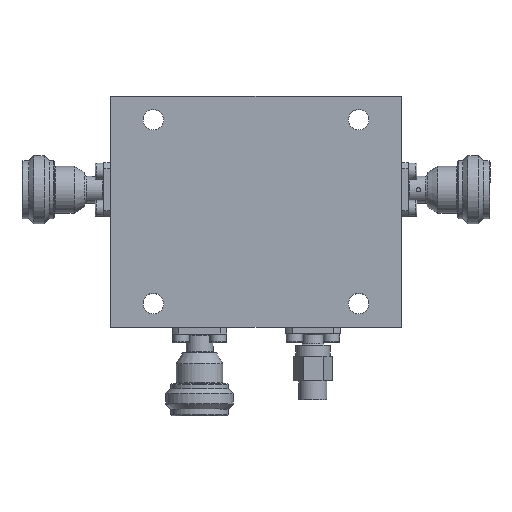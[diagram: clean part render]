
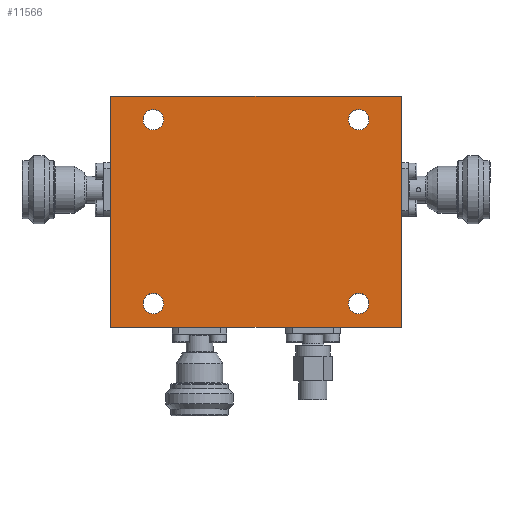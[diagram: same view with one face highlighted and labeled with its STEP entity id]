
A CAD part, top view. The second image highlights one B-rep face of the part: STEP entity #11566.
In plain terms, the highlighted planar face has unit normal (0, 0, 1).
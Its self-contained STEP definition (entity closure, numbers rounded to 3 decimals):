
#588=CIRCLE('',#12180,2.4);
#590=CIRCLE('',#12183,2.4);
#592=CIRCLE('',#12186,2.4);
#594=CIRCLE('',#12189,2.4);
#1089=ORIENTED_EDGE('',*,*,#3064,.T.);
#1090=ORIENTED_EDGE('',*,*,#3045,.T.);
#1091=ORIENTED_EDGE('',*,*,#3033,.T.);
#1092=ORIENTED_EDGE('',*,*,#3083,.T.);
#1093=ORIENTED_EDGE('',*,*,#3081,.F.);
#1094=ORIENTED_EDGE('',*,*,#3079,.F.);
#1095=ORIENTED_EDGE('',*,*,#3077,.F.);
#1096=ORIENTED_EDGE('',*,*,#3075,.F.);
#3033=EDGE_CURVE('',#4031,#4032,#4798,.T.);
#3045=EDGE_CURVE('',#4043,#4031,#4806,.T.);
#3064=EDGE_CURVE('',#4061,#4043,#4817,.T.);
#3075=EDGE_CURVE('',#4071,#4071,#588,.T.);
#3077=EDGE_CURVE('',#4073,#4073,#590,.T.);
#3079=EDGE_CURVE('',#4075,#4075,#592,.T.);
#3081=EDGE_CURVE('',#4077,#4077,#594,.T.);
#3083=EDGE_CURVE('',#4032,#4061,#4824,.T.);
#4031=VERTEX_POINT('',#15622);
#4032=VERTEX_POINT('',#15623);
#4043=VERTEX_POINT('',#15647);
#4061=VERTEX_POINT('',#15685);
#4071=VERTEX_POINT('',#15707);
#4073=VERTEX_POINT('',#15712);
#4075=VERTEX_POINT('',#15717);
#4077=VERTEX_POINT('',#15722);
#4798=LINE('',#15621,#5120);
#4806=LINE('',#15646,#5128);
#4817=LINE('',#15684,#5139);
#4824=LINE('',#15726,#5146);
#5120=VECTOR('',#13209,1000.);
#5128=VECTOR('',#13227,1000.);
#5139=VECTOR('',#13256,1000.);
#5146=VECTOR('',#13297,1000.);
#5457=EDGE_LOOP('',(#1089,#1090,#1091,#1092));
#5458=EDGE_LOOP('',(#1093));
#5459=EDGE_LOOP('',(#1094));
#5460=EDGE_LOOP('',(#1095));
#5461=EDGE_LOOP('',(#1096));
#6359=FACE_BOUND('',#5457,.T.);
#6360=FACE_BOUND('',#5458,.T.);
#6361=FACE_BOUND('',#5459,.T.);
#6362=FACE_BOUND('',#5460,.T.);
#6363=FACE_BOUND('',#5461,.T.);
#7266=PLANE('',#12191);
#11566=ADVANCED_FACE('',(#6359,#6360,#6361,#6362,#6363),#7266,.T.);
#12180=AXIS2_PLACEMENT_3D('',#15706,#13273,#13274);
#12183=AXIS2_PLACEMENT_3D('',#15711,#13279,#13280);
#12186=AXIS2_PLACEMENT_3D('',#15716,#13285,#13286);
#12189=AXIS2_PLACEMENT_3D('',#15721,#13291,#13292);
#12191=AXIS2_PLACEMENT_3D('',#15725,#13295,#13296);
#13209=DIRECTION('',(0.,1.,0.));
#13227=DIRECTION('',(1.,0.,0.));
#13256=DIRECTION('',(0.,-1.,0.));
#13273=DIRECTION('',(0.,0.,1.));
#13274=DIRECTION('',(1.,0.,0.));
#13279=DIRECTION('',(0.,0.,1.));
#13280=DIRECTION('',(1.,0.,0.));
#13285=DIRECTION('',(0.,0.,1.));
#13286=DIRECTION('',(1.,0.,0.));
#13291=DIRECTION('',(0.,0.,1.));
#13292=DIRECTION('',(1.,0.,0.));
#13295=DIRECTION('',(0.,0.,1.));
#13296=DIRECTION('',(1.,0.,0.));
#13297=DIRECTION('',(-1.,0.,0.));
#15621=CARTESIAN_POINT('',(34.,-27.,0.));
#15622=CARTESIAN_POINT('',(34.,-27.,0.));
#15623=CARTESIAN_POINT('',(34.,27.,0.));
#15646=CARTESIAN_POINT('',(-34.,-27.,0.));
#15647=CARTESIAN_POINT('',(-34.,-27.,0.));
#15684=CARTESIAN_POINT('',(-34.,27.,0.));
#15685=CARTESIAN_POINT('',(-34.,27.,0.));
#15706=CARTESIAN_POINT('',(-24.,21.5,0.));
#15707=CARTESIAN_POINT('',(-21.6,21.5,0.));
#15711=CARTESIAN_POINT('',(24.,21.5,0.));
#15712=CARTESIAN_POINT('',(26.4,21.5,0.));
#15716=CARTESIAN_POINT('',(24.,-21.5,0.));
#15717=CARTESIAN_POINT('',(26.4,-21.5,0.));
#15721=CARTESIAN_POINT('',(-24.,-21.5,0.));
#15722=CARTESIAN_POINT('',(-21.6,-21.5,0.));
#15725=CARTESIAN_POINT('',(0.,0.,0.));
#15726=CARTESIAN_POINT('',(34.,27.,0.));
